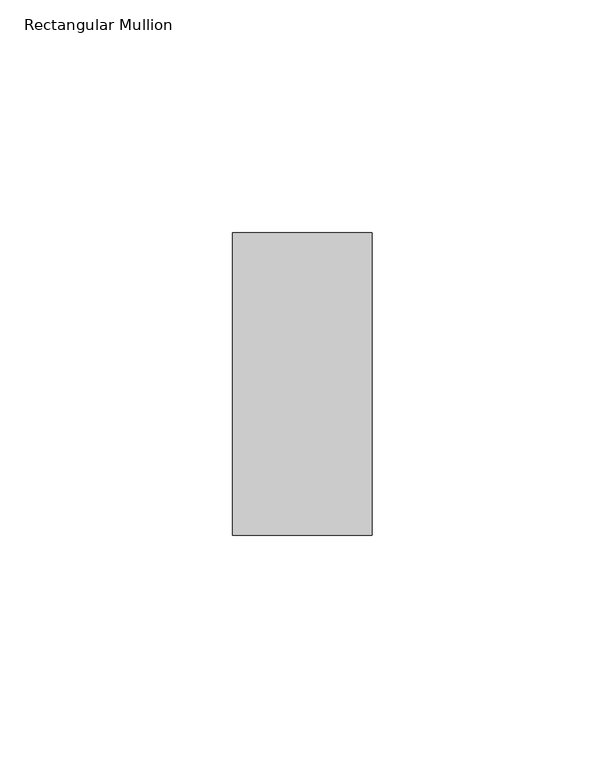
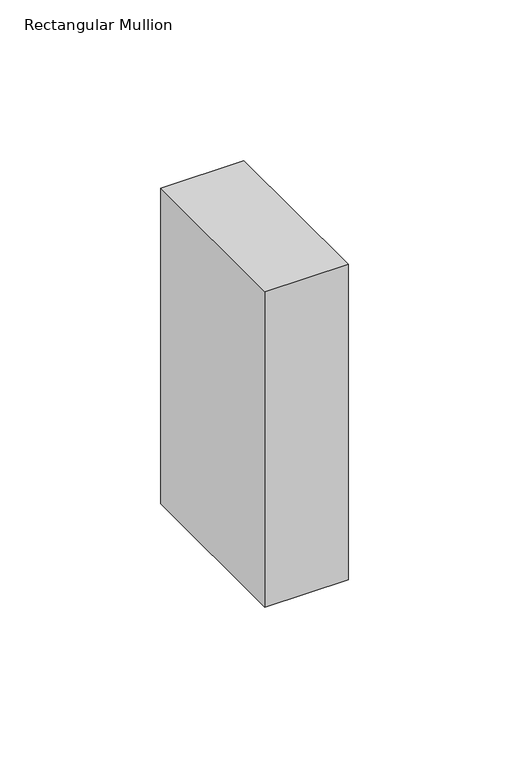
"""IFC4 building model written with IfcOpenShell, lengths in millimetres: member geometry, Rectangular Mullion : Batten_Timber_Modinex_Austratus_Grid_Fascia_30x65_AlaskanYellowCedar."""

from ifc_helpers import new_model, si_unit, frame, origin, place, context, project, spatial, polyline, outline, extrude, source, transform, mapped, element, save


def rectangular_mullion_51467dcc(model_context):
    return source(origin(), model_context, "Body", "SweptSolid", [
        extrude(outline(polyline([(-30.0, 65.0), (0.0, 65.0), (0.0, 0.0), (-30.0, 0.0), (-30.0, 65.0)])), frame((0.0, 0.0, -120.0), z_axis=(0.0, 0.0, 1.0), x_axis=(1.0, 0.0, 0.0)), (0.0, 0.0, 1.0), 120.0),
    ])


if __name__ == "__main__":
    model = new_model("IFC4")
    model_context = context("Model", 3, world=origin())
    ifc_project = project(units=[si_unit("LENGTHUNIT", "METRE", prefix="MILLI")], contexts=[model_context])
    site = spatial("IfcSite", under=ifc_project)
    building = spatial("IfcBuilding", under=site)
    placement = place(None, origin())
    rectangular_mullion_shape = rectangular_mullion_51467dcc(model_context)
    element("IfcMember", 1, ObjectType="Rectangular Mullion : Batten_Timber_Modinex_Austratus_Grid_Fascia_30x65_AlaskanYellowCedar", at=placement, inside=building, context=model_context, shape_type="MappedRepresentation", body=[
        mapped(rectangular_mullion_shape, transform((0.0, 0.0, 0.0), x_axis=(1.0, 0.0, 0.0), y_axis=(0.0, 1.0, 0.0), z_axis=(0.0, 0.0, 1.0))),
    ])
    save(model, "model.ifc")
